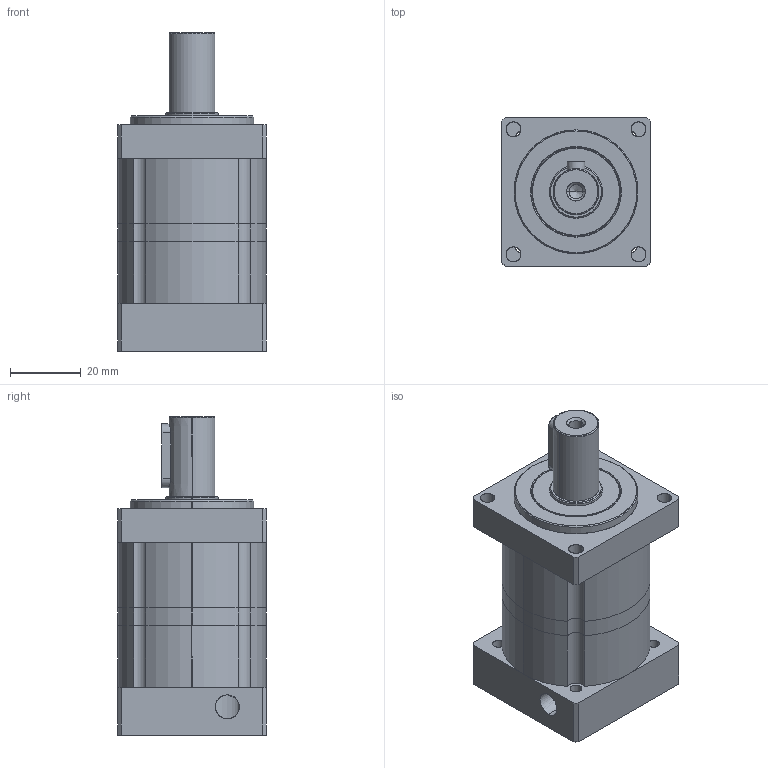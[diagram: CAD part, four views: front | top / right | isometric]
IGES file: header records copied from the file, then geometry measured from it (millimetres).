
Start section: SolidWorks IGES file using analytic representation for surfaces
Global section: file name: Z:\CAD Files\Gearboxes\S-Gearboxes\LX-040-005\LX-042-005-Rev1.IGS; native system: SolidWorks 2014; preprocessor: SolidWorks 2014; author: RENDER; date: 140627.140026; units: millimetre
Bounding box: 42 x 42 x 90 mm (x, y, z)
Surface area: 30594.7 mm2 (no closed solid volume)
Topology: 0 solids, 0 shells, 164 faces, 3150 edges, 3148 vertices
Faces by surface type: revolution 122, bspline 42
